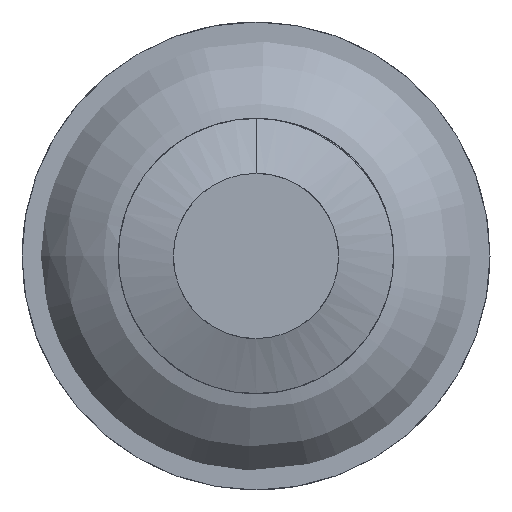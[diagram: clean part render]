
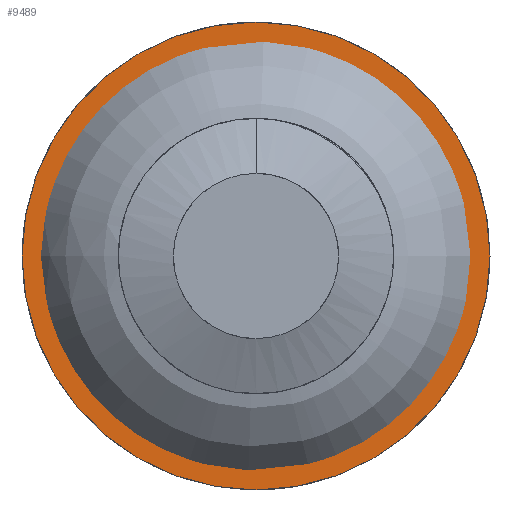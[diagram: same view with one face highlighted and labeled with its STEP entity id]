
A CAD part, left-side view. The second image highlights one B-rep face of the part: STEP entity #9489.
In plain terms, the highlighted planar face has unit normal (-1, 0, 0).
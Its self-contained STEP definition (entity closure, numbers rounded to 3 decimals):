
#21 = EDGE_CURVE('',#22,#24,#26,.T.);
#22 = VERTEX_POINT('',#23);
#23 = CARTESIAN_POINT('',(84.5,35.1,252.));
#24 = VERTEX_POINT('',#25);
#25 = CARTESIAN_POINT('',(84.5,36.593,251.6));
#26 = SURFACE_CURVE('',#27,(#32,#44),.PCURVE_S1.);
#27 = CIRCLE('',#28,0.8);
#28 = AXIS2_PLACEMENT_3D('',#29,#30,#31);
#29 = CARTESIAN_POINT('',(84.5,35.9,252.));
#30 = DIRECTION('',(-1.,0.,0.));
#31 = DIRECTION('',(0.,-1.,0.));
#32 = PCURVE('',#33,#38);
#33 = CYLINDRICAL_SURFACE('',#34,0.8);
#34 = AXIS2_PLACEMENT_3D('',#35,#36,#37);
#35 = CARTESIAN_POINT('',(87.225,35.9,252.));
#36 = DIRECTION('',(-1.,0.,0.));
#37 = DIRECTION('',(0.,1.,0.));
#38 = DEFINITIONAL_REPRESENTATION('',(#39),#43);
#39 = LINE('',#40,#41);
#40 = CARTESIAN_POINT('',(3.142,2.725));
#41 = VECTOR('',#42,1.);
#42 = DIRECTION('',(1.,0.));
#43 = ( GEOMETRIC_REPRESENTATION_CONTEXT(2) 
PARAMETRIC_REPRESENTATION_CONTEXT() REPRESENTATION_CONTEXT('2D SPACE',''
  ) );
#44 = PCURVE('',#45,#50);
#45 = PLANE('',#46);
#46 = AXIS2_PLACEMENT_3D('',#47,#48,#49);
#47 = CARTESIAN_POINT('',(84.5,35.9,252.));
#48 = DIRECTION('',(-1.,0.,0.));
#49 = DIRECTION('',(0.,1.,0.));
#50 = DEFINITIONAL_REPRESENTATION('',(#51),#55);
#51 = CIRCLE('',#52,0.8);
#52 = AXIS2_PLACEMENT_2D('',#53,#54);
#53 = CARTESIAN_POINT('',(0.,0.));
#54 = DIRECTION('',(-1.,-0.));
#55 = ( GEOMETRIC_REPRESENTATION_CONTEXT(2) 
PARAMETRIC_REPRESENTATION_CONTEXT() REPRESENTATION_CONTEXT('2D SPACE',''
  ) );
#546 = EDGE_CURVE('',#24,#22,#547,.T.);
#547 = SURFACE_CURVE('',#548,(#553,#560),.PCURVE_S1.);
#548 = CIRCLE('',#549,0.8);
#549 = AXIS2_PLACEMENT_3D('',#550,#551,#552);
#550 = CARTESIAN_POINT('',(84.5,35.9,252.));
#551 = DIRECTION('',(-1.,0.,0.));
#552 = DIRECTION('',(0.,-1.,0.));
#553 = PCURVE('',#33,#554);
#554 = DEFINITIONAL_REPRESENTATION('',(#555),#559);
#555 = LINE('',#556,#557);
#556 = CARTESIAN_POINT('',(-3.142,2.725));
#557 = VECTOR('',#558,1.);
#558 = DIRECTION('',(1.,0.));
#559 = ( GEOMETRIC_REPRESENTATION_CONTEXT(2) 
PARAMETRIC_REPRESENTATION_CONTEXT() REPRESENTATION_CONTEXT('2D SPACE',''
  ) );
#560 = PCURVE('',#45,#561);
#561 = DEFINITIONAL_REPRESENTATION('',(#562),#566);
#562 = CIRCLE('',#563,0.8);
#563 = AXIS2_PLACEMENT_2D('',#564,#565);
#564 = CARTESIAN_POINT('',(0.,0.));
#565 = DIRECTION('',(-1.,-0.));
#566 = ( GEOMETRIC_REPRESENTATION_CONTEXT(2) 
PARAMETRIC_REPRESENTATION_CONTEXT() REPRESENTATION_CONTEXT('2D SPACE',''
  ) );
#9489 = ADVANCED_FACE('',(#9490,#9521),#45,.T.);
#9490 = FACE_BOUND('',#9491,.T.);
#9491 = EDGE_LOOP('',(#9492));
#9492 = ORIENTED_EDGE('',*,*,#9493,.T.);
#9493 = EDGE_CURVE('',#9494,#9494,#9496,.T.);
#9494 = VERTEX_POINT('',#9495);
#9495 = CARTESIAN_POINT('',(84.5,34.2,252.));
#9496 = SURFACE_CURVE('',#9497,(#9502,#9509),.PCURVE_S1.);
#9497 = CIRCLE('',#9498,1.7);
#9498 = AXIS2_PLACEMENT_3D('',#9499,#9500,#9501);
#9499 = CARTESIAN_POINT('',(84.5,35.9,252.));
#9500 = DIRECTION('',(-1.,0.,0.));
#9501 = DIRECTION('',(0.,-1.,0.));
#9502 = PCURVE('',#45,#9503);
#9503 = DEFINITIONAL_REPRESENTATION('',(#9504),#9508);
#9504 = CIRCLE('',#9505,1.7);
#9505 = AXIS2_PLACEMENT_2D('',#9506,#9507);
#9506 = CARTESIAN_POINT('',(0.,0.));
#9507 = DIRECTION('',(-1.,-0.));
#9508 = ( GEOMETRIC_REPRESENTATION_CONTEXT(2) 
PARAMETRIC_REPRESENTATION_CONTEXT() REPRESENTATION_CONTEXT('2D SPACE',''
  ) );
#9509 = PCURVE('',#9510,#9515);
#9510 = CYLINDRICAL_SURFACE('',#9511,1.7);
#9511 = AXIS2_PLACEMENT_3D('',#9512,#9513,#9514);
#9512 = CARTESIAN_POINT('',(87.225,35.9,252.));
#9513 = DIRECTION('',(-1.,0.,0.));
#9514 = DIRECTION('',(0.,1.,0.));
#9515 = DEFINITIONAL_REPRESENTATION('',(#9516),#9520);
#9516 = LINE('',#9517,#9518);
#9517 = CARTESIAN_POINT('',(3.142,2.725));
#9518 = VECTOR('',#9519,1.);
#9519 = DIRECTION('',(1.,0.));
#9520 = ( GEOMETRIC_REPRESENTATION_CONTEXT(2) 
PARAMETRIC_REPRESENTATION_CONTEXT() REPRESENTATION_CONTEXT('2D SPACE',''
  ) );
#9521 = FACE_BOUND('',#9522,.T.);
#9522 = EDGE_LOOP('',(#9523,#9524));
#9523 = ORIENTED_EDGE('',*,*,#21,.F.);
#9524 = ORIENTED_EDGE('',*,*,#546,.F.);
